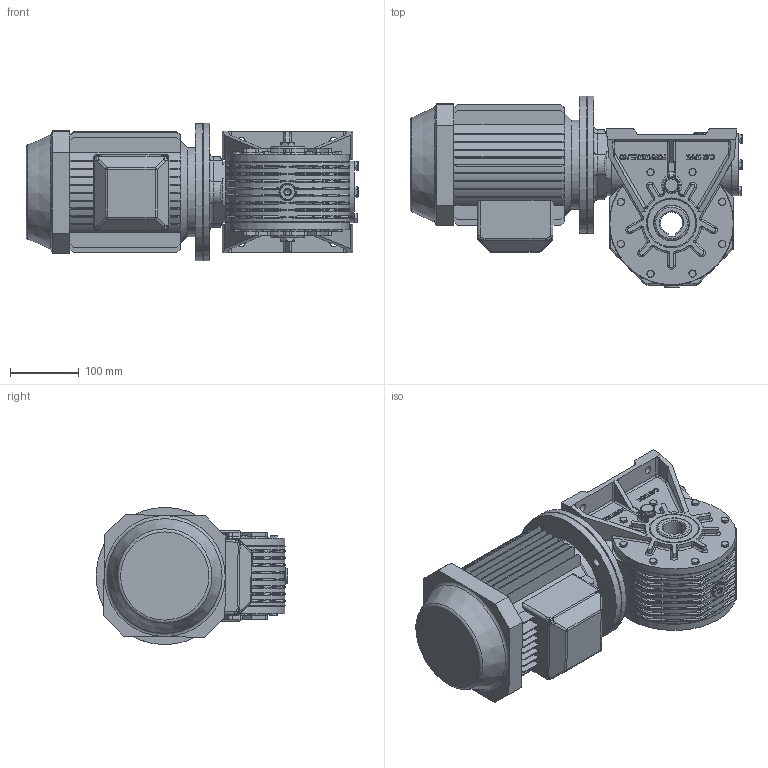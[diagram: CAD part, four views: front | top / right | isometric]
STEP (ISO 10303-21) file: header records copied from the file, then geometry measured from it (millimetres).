
FILE_DESCRIPTION((''),'2;1');
FILE_NAME('Y:\Archivi Inventor\Prog_01\GRAND_40\figurini\MRV40_SITO\90L\MRV40_P1_90L_B5.stp','2013-02-06T11:52:37',('tech3'),(''),'Autodesk Inventor 2013','Autodesk Inventor 2013','');
FILE_SCHEMA(('AUTOMOTIVE_DESIGN { 1 0 10303 214 1 1 1 1 }'));
Length unit declared in the file: millimetre
Products named in the file (18): MRV40_80_90S_90L_B5; MRV40 figurino; 0104001.A0 figurino; 0104009.A0 figurino; 0104028; 0104029; fig_mozzo corona. MRV-RV40cusc_conici; PARAOLIO 35x47x8; PARAOLIO 50x70x10; Guarnizione 3_8 GAS; Tappo 3_8 GAS_esagn_incsst; Tappo3_8 GAS; 0104010.A0 figurino; UNI 5739  M6 x 20; UNI 5931  M 8 x  25; UNI 5739 M8 x 20; 0104006; motori B5 90L
Assembly tree (47 placements, depth 3):
  MRV40_80_90S_90L_B5
    MRV40 figurino
      0104001.A0 figurino
      0104009.A0 figurino
      0104028  x2
      0104029  x2
      fig_mozzo corona. MRV-RV40cusc_conici
      PARAOLIO 35x47x8
      PARAOLIO 50x70x10  x2
      Guarnizione 3_8 GAS  x4
      Tappo 3_8 GAS_esagn_incsst  x2
      Tappo3_8 GAS  x2
      0104010.A0 figurino  x2
      UNI 5739  M6 x 20  x16
      UNI 5931  M 8 x  25  x4
      UNI 5739 M8 x 20  x4
    0104006
    motori B5 90L
Bounding box: 484.1 x 279.5 x 200 mm (x, y, z)
Volume: 9605675.6 mm3; surface area: 1049128.2 mm2
Topology: 46 solids, 46 shells, 2647 faces, 6614 edges, 4110 vertices
Faces by surface type: plane 1272, cylinder 655, bspline 366, cone 192, torus 134, sphere 28
Full cylindrical faces by diameter (mm): 2 x2, 4.917 x16, 6 x16, 6.5 x32, 8 x10, 8.5 x12, 8.75 x4, 8.88 x16, 11 x4, 11.5 x4, 11.63 x4, 12 x4, 13 x4, 13.046 x2, 14.95 x4, 16.3 x4, 16.5 x2, 22 x8, 24 x1, 25 x2, 39.605 x1, 43.5 x1, 47 x2, 50 x1, 55 x1, 56.381 x2, 62 x3, 65 x2, 70 x4, 89.5 x2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
Entity records: 59934 total; most frequent: CARTESIAN_POINT 19286, ORIENTED_EDGE 8234, DIRECTION 7888, EDGE_CURVE 4117, AXIS2_PLACEMENT_3D 2849, VERTEX_POINT 2657, VECTOR 2190, LINE 2190
